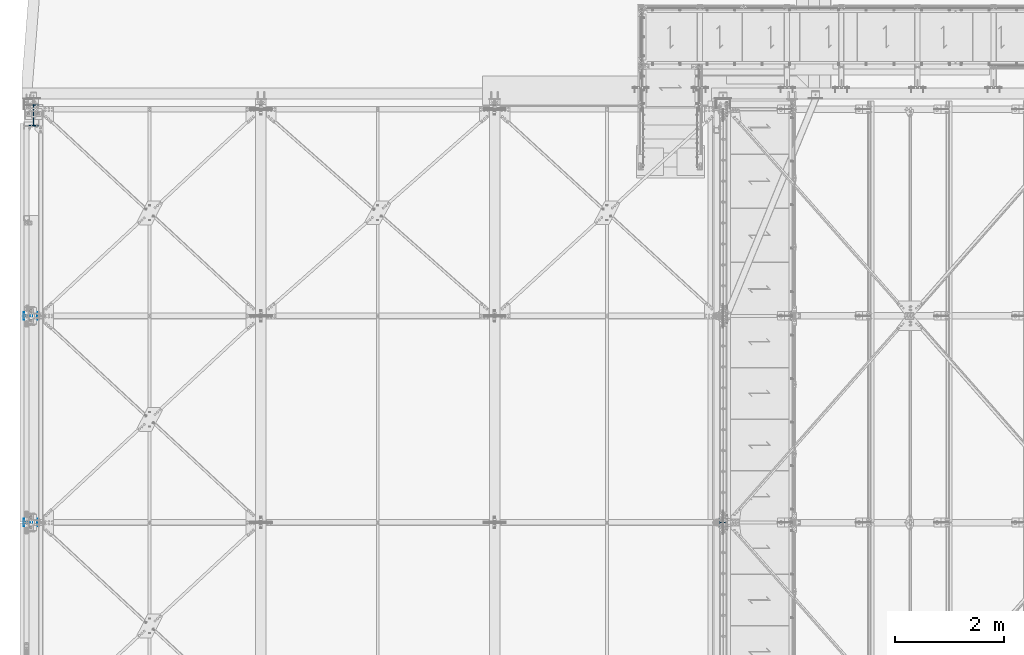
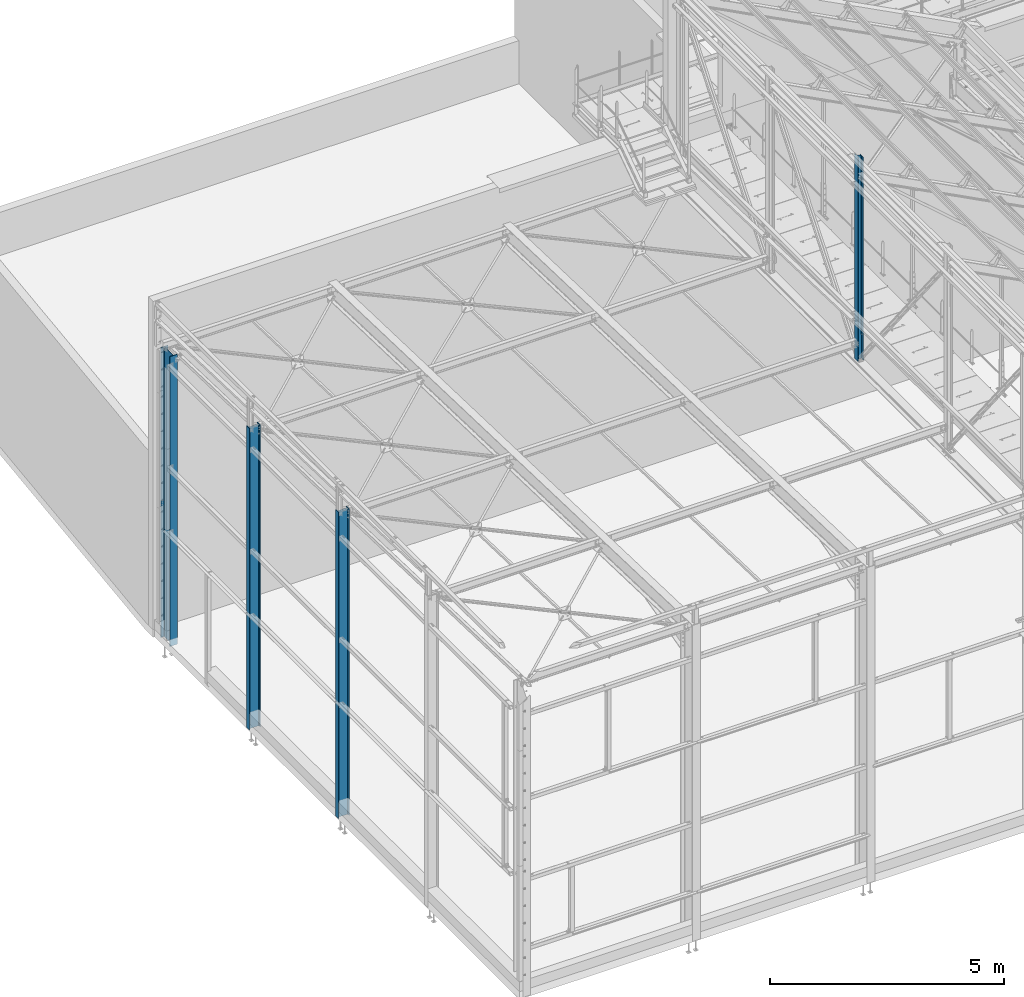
# One storey, part 5 of 362: 4 columns, 4 elements without a shape of their own.
"""IFC2X3 building model written with IfcOpenShell, lengths in millimetres."""

from ifc_helpers import new_model, si_unit, frame, origin_with_axes, origin_2d_with_axis, place, context, subcontext, project, spatial, i_section, extrude, clip, halfspace, material, type_object, element, aggregate, save


model = new_model("IFC2X3")

# Units and contexts
model_context = context("Model", 3, precision=1e-05, world=origin_with_axes())
body_context = subcontext(model_context, "Body", "Model", "MODEL_VIEW")
ifc_project = project(units=[si_unit("LENGTHUNIT", "METRE", prefix="MILLI"), si_unit("AREAUNIT", "SQUARE_METRE"), si_unit("VOLUMEUNIT", "CUBIC_METRE"), si_unit("MASSUNIT", "GRAM", prefix="KILO"), si_unit("TIMEUNIT", "SECOND"), si_unit("PLANEANGLEUNIT", "RADIAN"), si_unit("SOLIDANGLEUNIT", "STERADIAN"), si_unit("THERMODYNAMICTEMPERATUREUNIT", "DEGREE_CELSIUS"), si_unit("LUMINOUSINTENSITYUNIT", "LUMEN")], contexts=[model_context])

# Site, building, storey
site_placement = place(None, origin_with_axes())
site = spatial("IfcSite", under=ifc_project, at=site_placement, Name="Undefined", CompositionType="ELEMENT")
building_placement = place(site_placement, origin_with_axes())
building = spatial("IfcBuilding", under=site, at=building_placement, Name="Undefined", CompositionType="ELEMENT")
storey_placement = place(building_placement, origin_with_axes())
storey = spatial("IfcBuildingStorey", under=building, at=storey_placement, Name="Undefined", CompositionType="ELEMENT", Elevation=0.0)

# Assembly, column
assembly_1_placement = place(storey_placement, origin_with_axes())
assembly_1 = element("IfcElementAssembly", 1, at=assembly_1_placement, inside=storey, Name="MONTANT", AssemblyPlace="NOTDEFINED", PredefinedType="NOTDEFINED")
ifc_material = material(Name="Undefined/S275-E28")
column_type_1 = type_object("IfcColumnType", Name="HEA140", PredefinedType="NOTDEFINED")
column_1_placement = place(assembly_1_placement, frame((12680.0, 7600.0, 7260.0), z_axis=(0.0, 0.0, 1.0), x_axis=(-1.0, 0.0, 0.0)))
column_1 = element("IfcColumn", 2, at=column_1_placement, type_object=column_type_1, material=ifc_material, Name="MONTANT", ObjectType="HEA140", context=body_context, shape_type="Clipping", body=[
    clip(extrude(i_section(OverallWidth=140.0, OverallDepth=133.0, WebThickness=5.5, FlangeThickness=8.5, FilletRadius=12.0, at=origin_2d_with_axis()), frame((0.0, 0.0, 5353.83208547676), z_axis=(0.0, 0.0, -1.0), x_axis=(0.0, 1.0, 0.0)), (0.0, 0.0, 1.0), 5353.83), halfspace(frame((-66.5, 70.0, 5272.97130380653), z_axis=(-0.463528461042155, -7.08866187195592e-09, 0.886082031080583), x_axis=(0.886082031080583, 0.0, 0.463528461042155)), False)),
])
aggregate(assembly_1, [column_1])

assembly_2_placement = place(storey_placement, origin_with_axes())
assembly_2 = element("IfcElementAssembly", 3, at=assembly_2_placement, inside=storey, Name="POTEAU", AssemblyPlace="NOTDEFINED", PredefinedType="NOTDEFINED")
column_type_2 = type_object("IfcColumnType", Name="IPE270", PredefinedType="NOTDEFINED")
column_2_placement = place(assembly_2_placement, frame((-45.0, 7600.0, -180.0), z_axis=(0.0, 0.0, 1.0), x_axis=(-1.0, 0.0, 0.0)))
column_2 = element("IfcColumn", 4, at=column_2_placement, type_object=column_type_2, material=ifc_material, Name="POTEAU", ObjectType="IPE270", context=body_context, shape_type="SweptSolid", body=[
    extrude(i_section(OverallWidth=135.0, OverallDepth=270.0, WebThickness=6.599999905, FlangeThickness=10.19999981, FilletRadius=15.0, at=origin_2d_with_axis()), frame((0.0, 0.0, 7985.00041024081), z_axis=(0.0, 0.0, -1.0), x_axis=(0.0, 1.0, 0.0)), (0.0, 0.0, 1.0), 7985.0),
])
aggregate(assembly_2, [column_2])

assembly_3_placement = place(storey_placement, origin_with_axes())
assembly_3 = element("IfcElementAssembly", 5, at=assembly_3_placement, inside=storey, Name="POTEAU", AssemblyPlace="NOTDEFINED", PredefinedType="NOTDEFINED")
column_3_placement = place(assembly_3_placement, frame((-45.0, 11400.0, -180.0), z_axis=(0.0, 0.0, 1.0), x_axis=(-1.0, 0.0, 0.0)))
column_3 = element("IfcColumn", 6, at=column_3_placement, type_object=column_type_2, material=ifc_material, Name="POTEAU", ObjectType="IPE270", context=body_context, shape_type="SweptSolid", body=[
    extrude(i_section(OverallWidth=135.0, OverallDepth=270.0, WebThickness=6.599999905, FlangeThickness=10.19999981, FilletRadius=15.0, at=origin_2d_with_axis()), frame((0.0, 0.0, 7865.0013155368), z_axis=(0.0, 0.0, -1.0), x_axis=(0.0, 1.0, 0.0)), (0.0, 0.0, 1.0), 7865.0),
])
aggregate(assembly_3, [column_3])

assembly_4_placement = place(storey_placement, origin_with_axes())
assembly_4 = element("IfcElementAssembly", 7, at=assembly_4_placement, inside=storey, Name="POTEAU", AssemblyPlace="NOTDEFINED", PredefinedType="NOTDEFINED")
column_type_3 = type_object("IfcColumnType", Name="IPE400", PredefinedType="NOTDEFINED")
column_4_placement = place(assembly_4_placement, frame((6.54258599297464e-07, 15090.0000024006, -179.999999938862), z_axis=(0.0, 0.0, 1.0), x_axis=(0.0, -1.0, 0.0)))
column_4 = element("IfcColumn", 8, at=column_4_placement, type_object=column_type_3, material=ifc_material, Name="POTEAU", ObjectType="IPE400", context=body_context, shape_type="SweptSolid", body=[
    extrude(i_section(OverallWidth=180.0, OverallDepth=400.0, WebThickness=8.600000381, FlangeThickness=13.5, FilletRadius=21.0, at=origin_2d_with_axis()), frame((0.0, 0.0, 7549.99999999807), z_axis=(0.0, 0.0, -1.0), x_axis=(0.0, 1.0, 0.0)), (0.0, 0.0, 1.0), 7550.0),
])
aggregate(assembly_4, [column_4])

save(model, "model.ifc")
